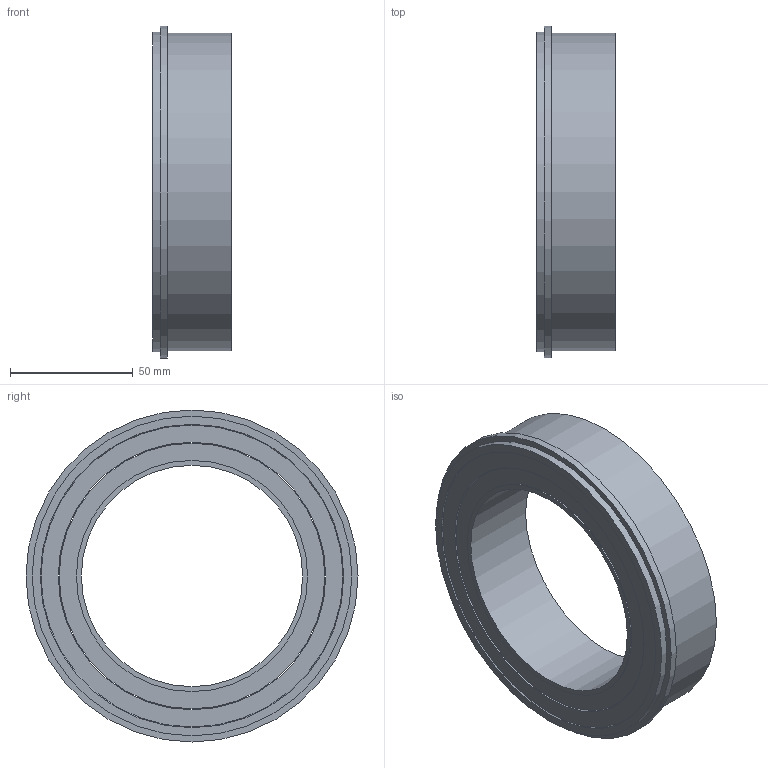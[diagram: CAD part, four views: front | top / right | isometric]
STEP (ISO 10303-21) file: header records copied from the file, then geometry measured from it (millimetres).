
FILE_DESCRIPTION((''),'2;1');
FILE_NAME('P:\Inventor\Standard\Resolveur_90\RES FC.stp','2013-05-22T13:13:08',('sv'),(''),'Autodesk Inventor 2011','Autodesk Inventor 2011','');
FILE_SCHEMA(('AUTOMOTIVE_DESIGN { 1 0 10303 214 1 1 1 1 }'));
Length unit declared in the file: millimetre
Products named in the file (1): resolveur
Bounding box: 32 x 135 x 135 mm (x, y, z)
Volume: 160734.3 mm3; surface area: 87644.4 mm2
Topology: 2 solids, 2 shells, 58 faces, 87 edges, 58 vertices
Faces by surface type: plane 29, cylinder 28, cone 1
Full cylindrical faces by diameter (mm): 90 x1, 94 x3, 96 x1, 97 x2, 100 x1, 106 x2, 108 x3, 108.8 x3, 110.8 x2, 116.8 x1, 118.8 x2, 121 x1, 122.8 x2, 123 x1, 129 x1, 130 x1, 135 x1
Entity records: 1249 total; most frequent: DIRECTION 234, CARTESIAN_POINT 175, AXIS2_PLACEMENT_3D 117, ORIENTED_EDGE 116, EDGE_LOOP 116, VERTEX_POINT 58, CIRCLE 58, EDGE_CURVE 58
